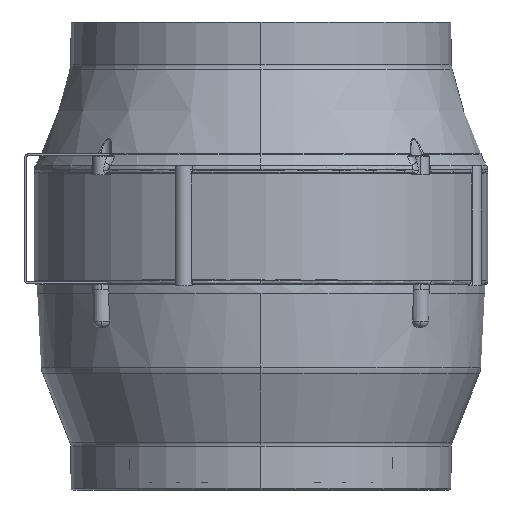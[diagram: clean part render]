
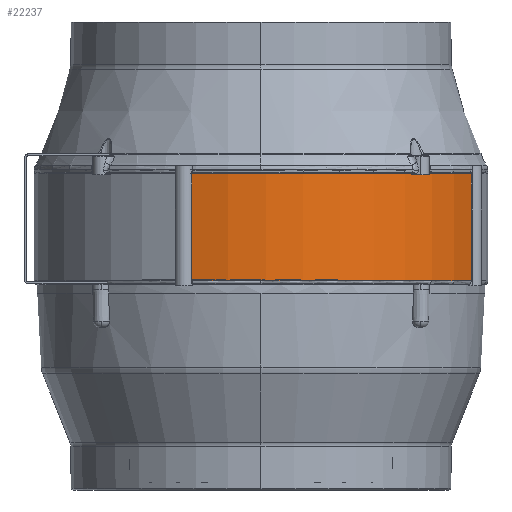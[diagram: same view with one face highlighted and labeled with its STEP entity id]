
A CAD part, left-side view. The second image highlights one B-rep face of the part: STEP entity #22237.
In plain terms, the highlighted cylindrical face has radius 118.8 mm (diameter 237.6 mm), a partial arc.
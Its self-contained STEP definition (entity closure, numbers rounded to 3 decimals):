
#810 = DIRECTION ( 'NONE',  ( 1., 0., 0. ) ) ;
#812 = DIRECTION ( 'NONE',  ( 0., 0., 1. ) ) ;
#814 = CARTESIAN_POINT ( 'NONE',  ( 0., 0., 0. ) ) ;
#5663 = CARTESIAN_POINT ( 'NONE',  ( 0., 0., 4.5 ) ) ;
#5664 = DIRECTION ( 'NONE',  ( 0., 0., 1. ) ) ;
#5665 = DIRECTION ( 'NONE',  ( 1., 0., 0. ) ) ;
#7282 = CIRCLE ( 'NONE', #10599, 118.8 ) ;
#7770 = FACE_OUTER_BOUND ( 'NONE', #12764, .T. ) ;
#7780 = CYLINDRICAL_SURFACE ( 'NONE', #10760, 118.8 ) ;
#7803 = CARTESIAN_POINT ( 'NONE',  ( 0., 0., 61. ) ) ;
#7805 = DIRECTION ( 'NONE',  ( 0., 0., 1. ) ) ;
#7807 = DIRECTION ( 'NONE',  ( 1., 0., 0. ) ) ;
#8463 = CARTESIAN_POINT ( 'NONE',  ( -113.116, 36.308, 33.4 ) ) ;
#8464 = DIRECTION ( 'NONE',  ( 0., 0., -1. ) ) ;
#9309 = VERTEX_POINT ( 'NONE', #14749 ) ;
#10005 = VECTOR ( 'NONE', #17475, 1000. ) ;
#10008 = LINE ( 'NONE', #17461, #10005 ) ;
#10082 = CIRCLE ( 'NONE', #10488, 118.8 ) ;
#10118 = LINE ( 'NONE', #8463, #10121 ) ;
#10121 = VECTOR ( 'NONE', #8464, 1000. ) ;
#10405 = EDGE_CURVE ( 'NONE', #11026, #9309, #10008, .T. ) ;
#10488 = AXIS2_PLACEMENT_3D ( 'NONE', #7803, #7805, #7807 ) ;
#10599 = AXIS2_PLACEMENT_3D ( 'NONE', #5663, #5664, #5665 ) ;
#10760 = AXIS2_PLACEMENT_3D ( 'NONE', #814, #812, #810 ) ;
#11026 = VERTEX_POINT ( 'NONE', #17913 ) ;
#11055 = VERTEX_POINT ( 'NONE', #17963 ) ;
#11067 = VERTEX_POINT ( 'NONE', #17985 ) ;
#12105 = ORIENTED_EDGE ( 'NONE', *, *, #19245, .T. ) ;
#12157 = ORIENTED_EDGE ( 'NONE', *, *, #19166, .F. ) ;
#12161 = ORIENTED_EDGE ( 'NONE', *, *, #10405, .T. ) ;
#12384 = ORIENTED_EDGE ( 'NONE', *, *, #19381, .T. ) ;
#12764 = EDGE_LOOP ( 'NONE', ( #12384, #12161, #12157, #12105 ) ) ;
#14749 = CARTESIAN_POINT ( 'NONE',  ( -44.896, -109.99, 61. ) ) ;
#17461 = CARTESIAN_POINT ( 'NONE',  ( -44.896, -109.99, 33.4 ) ) ;
#17475 = DIRECTION ( 'NONE',  ( 0., 0., 1. ) ) ;
#17913 = CARTESIAN_POINT ( 'NONE',  ( -44.896, -109.99, 4.5 ) ) ;
#17963 = CARTESIAN_POINT ( 'NONE',  ( -113.116, 36.308, 4.5 ) ) ;
#17985 = CARTESIAN_POINT ( 'NONE',  ( -113.116, 36.308, 61. ) ) ;
#19166 = EDGE_CURVE ( 'NONE', #11067, #9309, #10082, .T. ) ;
#19245 = EDGE_CURVE ( 'NONE', #11067, #11055, #10118, .T. ) ;
#19381 = EDGE_CURVE ( 'NONE', #11055, #11026, #7282, .T. ) ;
#22237 = ADVANCED_FACE ( 'NONE', ( #7770 ), #7780, .T. ) ;
